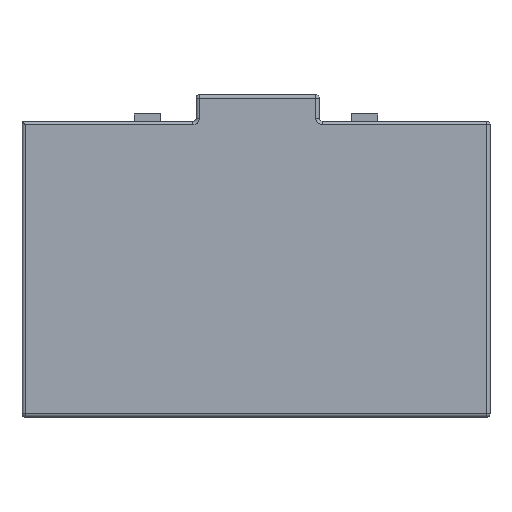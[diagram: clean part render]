
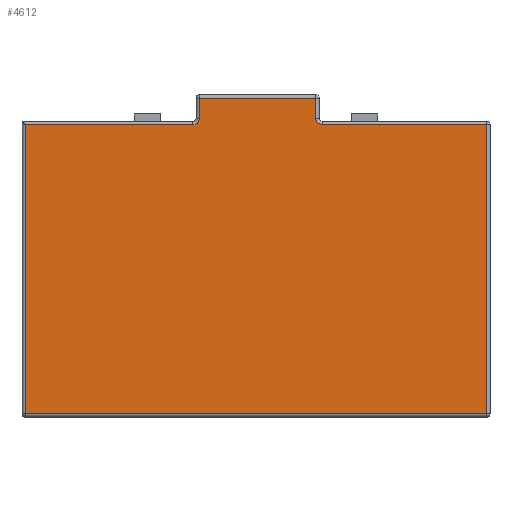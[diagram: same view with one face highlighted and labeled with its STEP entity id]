
A CAD part, top view. The second image highlights one B-rep face of the part: STEP entity #4612.
In plain terms, the highlighted planar face has unit normal (0, 0, 1).
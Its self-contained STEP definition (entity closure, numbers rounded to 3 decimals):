
#1293=DIRECTION('',(0.,-1.,0.));
#1294=VECTOR('',#1293,44.4);
#1295=CARTESIAN_POINT('',(35.45,44.9,8.75));
#1296=LINE('',#1295,#1294);
#1300=DIRECTION('',(-1.,0.,0.));
#1301=VECTOR('',#1300,70.9);
#1302=CARTESIAN_POINT('',(35.45,0.5,8.75));
#1303=LINE('',#1302,#1301);
#1307=DIRECTION('',(0.,-1.,0.));
#1308=VECTOR('',#1307,44.4);
#1309=CARTESIAN_POINT('',(-35.45,44.9,8.75));
#1310=LINE('',#1309,#1308);
#1314=DIRECTION('',(-1.,0.,0.));
#1315=VECTOR('',#1314,25.75);
#1316=CARTESIAN_POINT('',(-9.7,44.9,8.75));
#1317=LINE('',#1316,#1315);
#1321=CARTESIAN_POINT('',(-9.7,45.9,8.75));
#1322=DIRECTION('',(0.,0.,-1.));
#1323=DIRECTION('',(1.,0.,0.));
#1324=AXIS2_PLACEMENT_3D('',#1321,#1322,#1323);
#1329=DIRECTION('',(0.,-1.,0.));
#1330=VECTOR('',#1329,3.1);
#1331=CARTESIAN_POINT('',(-8.7,49.,8.75));
#1332=LINE('',#1331,#1330);
#1336=DIRECTION('',(1.,0.,0.));
#1337=VECTOR('',#1336,17.9);
#1338=CARTESIAN_POINT('',(-8.7,49.,8.75));
#1339=LINE('',#1338,#1337);
#1343=DIRECTION('',(0.,1.,0.));
#1344=VECTOR('',#1343,3.1);
#1345=CARTESIAN_POINT('',(9.2,45.9,8.75));
#1346=LINE('',#1345,#1344);
#1350=CARTESIAN_POINT('',(10.2,45.9,8.75));
#1351=DIRECTION('',(0.,0.,-1.));
#1352=DIRECTION('',(0.,-1.,0.));
#1353=AXIS2_PLACEMENT_3D('',#1350,#1351,#1352);
#1358=DIRECTION('',(-1.,0.,0.));
#1359=VECTOR('',#1358,25.25);
#1360=CARTESIAN_POINT('',(35.45,44.9,8.75));
#1361=LINE('',#1360,#1359);
#2400=CARTESIAN_POINT('',(35.45,44.9,8.75));
#2401=CARTESIAN_POINT('',(35.45,0.5,8.75));
#2402=VERTEX_POINT('',#2400);
#2403=VERTEX_POINT('',#2401);
#2410=CARTESIAN_POINT('',(-35.45,0.5,8.75));
#2411=VERTEX_POINT('',#2410);
#2412=CARTESIAN_POINT('',(-35.45,44.9,8.75));
#2413=VERTEX_POINT('',#2412);
#2416=CARTESIAN_POINT('',(-9.7,44.9,8.75));
#2417=VERTEX_POINT('',#2416);
#2424=CARTESIAN_POINT('',(-8.7,49.,8.75));
#2425=CARTESIAN_POINT('',(-8.7,45.9,8.75));
#2426=VERTEX_POINT('',#2424);
#2427=VERTEX_POINT('',#2425);
#2436=CARTESIAN_POINT('',(9.2,49.,8.75));
#2437=VERTEX_POINT('',#2436);
#2440=CARTESIAN_POINT('',(9.2,45.9,8.75));
#2441=VERTEX_POINT('',#2440);
#2456=CARTESIAN_POINT('',(10.2,44.9,8.75));
#2457=VERTEX_POINT('',#2456);
#4586=CARTESIAN_POINT('',(-35.95,0.,8.75));
#4587=DIRECTION('',(0.,0.,1.));
#4588=DIRECTION('',(1.,0.,0.));
#4589=AXIS2_PLACEMENT_3D('',#4586,#4587,#4588);
#4590=PLANE('',#4589);
#4592=ORIENTED_EDGE('',*,*,#4591,.T.);
#4594=ORIENTED_EDGE('',*,*,#4593,.T.);
#4596=ORIENTED_EDGE('',*,*,#4595,.F.);
#4598=ORIENTED_EDGE('',*,*,#4597,.F.);
#4600=ORIENTED_EDGE('',*,*,#4599,.F.);
#4602=ORIENTED_EDGE('',*,*,#4601,.F.);
#4604=ORIENTED_EDGE('',*,*,#4603,.T.);
#4605=ORIENTED_EDGE('',*,*,#4564,.F.);
#4607=ORIENTED_EDGE('',*,*,#4606,.F.);
#4609=ORIENTED_EDGE('',*,*,#4608,.F.);
#4610=EDGE_LOOP('',(#4592,#4594,#4596,#4598,#4600,#4602,#4604,#4605,#4607,
#4609));
#4611=FACE_OUTER_BOUND('',#4610,.F.);
#1325=CIRCLE('',#1324,1.);
#1354=CIRCLE('',#1353,1.);
#4564=EDGE_CURVE('',#2441,#2437,#1346,.T.);
#4591=EDGE_CURVE('',#2402,#2403,#1296,.T.);
#4593=EDGE_CURVE('',#2403,#2411,#1303,.T.);
#4595=EDGE_CURVE('',#2413,#2411,#1310,.T.);
#4597=EDGE_CURVE('',#2417,#2413,#1317,.T.);
#4599=EDGE_CURVE('',#2427,#2417,#1325,.T.);
#4601=EDGE_CURVE('',#2426,#2427,#1332,.T.);
#4603=EDGE_CURVE('',#2426,#2437,#1339,.T.);
#4606=EDGE_CURVE('',#2457,#2441,#1354,.T.);
#4608=EDGE_CURVE('',#2402,#2457,#1361,.T.);
#4612=ADVANCED_FACE('',(#4611),#4590,.T.);
